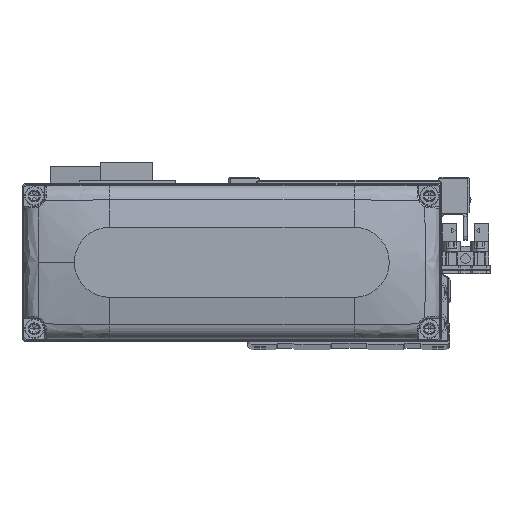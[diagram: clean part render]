
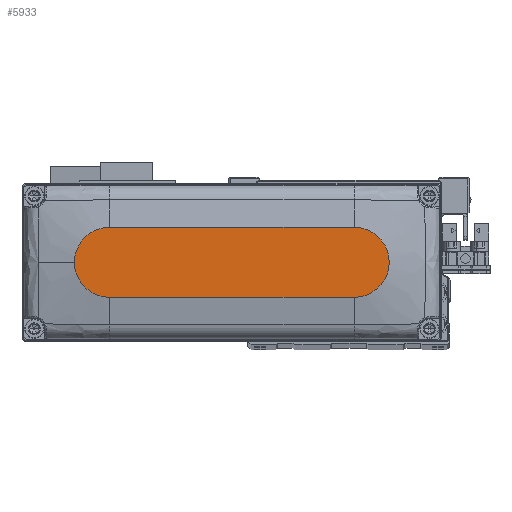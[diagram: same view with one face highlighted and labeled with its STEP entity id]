
A CAD part, top view. The second image highlights one B-rep face of the part: STEP entity #5933.
In plain terms, the highlighted planar face has unit normal (0, 0, 1).
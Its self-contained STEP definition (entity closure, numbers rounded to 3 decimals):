
#76 = CARTESIAN_POINT ( 'NONE',  ( -35., 10., 28. ) ) ;
#3065 = CARTESIAN_POINT ( 'NONE',  ( -35., -10., 28. ) ) ;
#3417 = CARTESIAN_POINT ( 'NONE',  ( 0., 0., 28. ) ) ;
#5449 = ORIENTED_EDGE ( 'NONE', *, *, #24476, .T. ) ;
#5580 = DIRECTION ( 'NONE',  ( 0., 0., 1. ) ) ;
#5933 = ADVANCED_FACE ( 'NONE', ( #18912 ), #31323, .T. ) ;
#6123 = EDGE_CURVE ( 'NONE', #13020, #35462, #27691, .T. ) ;
#6483 = CARTESIAN_POINT ( 'NONE',  ( -35., -10., 28. ) ) ;
#10118 = AXIS2_PLACEMENT_3D ( 'NONE', #39573, #11690, #24121 ) ;
#10283 = DIRECTION ( 'NONE',  ( 1., 0., 0. ) ) ;
#11642 = CARTESIAN_POINT ( 'NONE',  ( -35., 10., 28. ) ) ;
#11690 = DIRECTION ( 'NONE',  ( 0., 0., 1. ) ) ;
#12408 = VERTEX_POINT ( 'NONE', #29814 ) ;
#12704 = AXIS2_PLACEMENT_3D ( 'NONE', #3417, #15850, #28270 ) ;
#13020 = VERTEX_POINT ( 'NONE', #76 ) ;
#14755 = EDGE_CURVE ( 'NONE', #12408, #33803, #33123, .T. ) ;
#15551 = AXIS2_PLACEMENT_3D ( 'NONE', #33497, #5580, #18013 ) ;
#15850 = DIRECTION ( 'NONE',  ( 0., 0., 1. ) ) ;
#16957 = EDGE_CURVE ( 'NONE', #35462, #35654, #34377, .T. ) ;
#18013 = DIRECTION ( 'NONE',  ( 1., 0., 0. ) ) ;
#18912 = FACE_OUTER_BOUND ( 'NONE', #27439, .T. ) ;
#18921 = DIRECTION ( 'NONE',  ( 1., 0., 0. ) ) ;
#20078 = ORIENTED_EDGE ( 'NONE', *, *, #23310, .T. ) ;
#21125 = AXIS2_PLACEMENT_3D ( 'NONE', #25765, #38169, #10283 ) ;
#23310 = EDGE_CURVE ( 'NONE', #33803, #13020, #39524, .T. ) ;
#24065 = DIRECTION ( 'NONE',  ( -1., 0., 0. ) ) ;
#24121 = DIRECTION ( 'NONE',  ( 1., 0., 0. ) ) ;
#24476 = EDGE_CURVE ( 'NONE', #35654, #12408, #38657, .T. ) ;
#25470 = VECTOR ( 'NONE', #18921, 1000. ) ;
#25765 = CARTESIAN_POINT ( 'NONE',  ( 35., 0., 28. ) ) ;
#27439 = EDGE_LOOP ( 'NONE', ( #20078, #36749, #31883, #5449, #31150 ) ) ;
#27691 = CIRCLE ( 'NONE', #10118, 10. ) ;
#28270 = DIRECTION ( 'NONE',  ( 1., 0., 0. ) ) ;
#29326 = CARTESIAN_POINT ( 'NONE',  ( 35., -10., 28. ) ) ;
#29814 = CARTESIAN_POINT ( 'NONE',  ( 45., 0., 28. ) ) ;
#31150 = ORIENTED_EDGE ( 'NONE', *, *, #14755, .T. ) ;
#31323 = PLANE ( 'NONE',  #12704 ) ;
#31441 = CARTESIAN_POINT ( 'NONE',  ( 35., 10., 28. ) ) ;
#31883 = ORIENTED_EDGE ( 'NONE', *, *, #16957, .T. ) ;
#33123 = CIRCLE ( 'NONE', #15551, 10. ) ;
#33497 = CARTESIAN_POINT ( 'NONE',  ( 35., 0., 28. ) ) ;
#33803 = VERTEX_POINT ( 'NONE', #31441 ) ;
#34377 = LINE ( 'NONE', #6483, #25470 ) ;
#35462 = VERTEX_POINT ( 'NONE', #3065 ) ;
#35654 = VERTEX_POINT ( 'NONE', #29326 ) ;
#36002 = VECTOR ( 'NONE', #24065, 1000. ) ;
#36749 = ORIENTED_EDGE ( 'NONE', *, *, #6123, .T. ) ;
#38169 = DIRECTION ( 'NONE',  ( 0., 0., 1. ) ) ;
#38657 = CIRCLE ( 'NONE', #21125, 10. ) ;
#39524 = LINE ( 'NONE', #11642, #36002 ) ;
#39573 = CARTESIAN_POINT ( 'NONE',  ( -35., 0., 28. ) ) ;
